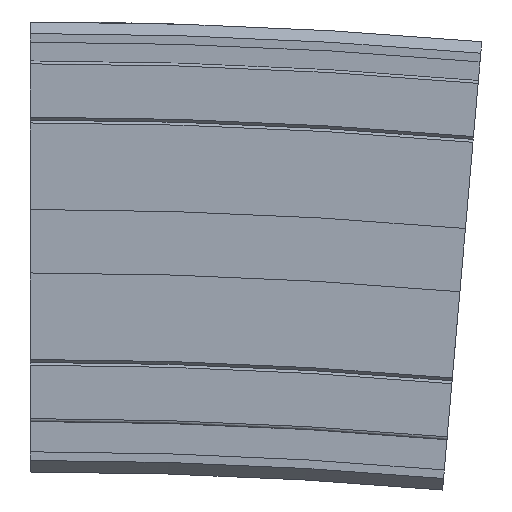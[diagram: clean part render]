
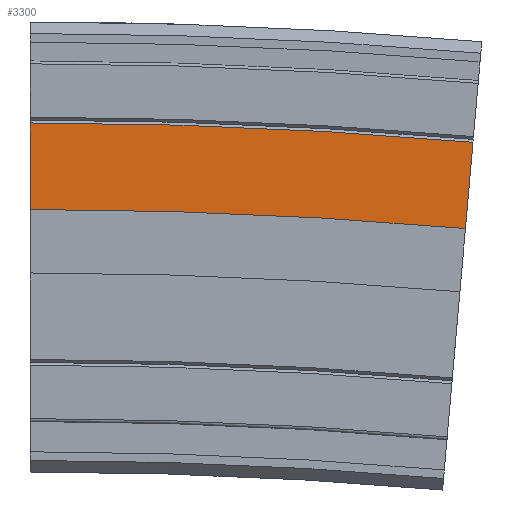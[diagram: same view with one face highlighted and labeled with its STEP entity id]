
A CAD part, front view. The second image highlights one B-rep face of the part: STEP entity #3300.
In plain terms, the highlighted planar face has unit normal (0, -1, 0).
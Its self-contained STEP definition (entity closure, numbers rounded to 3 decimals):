
#3242=CARTESIAN_POINT('',(75.433,-32.,-35.793));
#3243=VERTEX_POINT('',#3242);
#3250=CARTESIAN_POINT('',(0.0,-32.,-32.5));
#3251=VERTEX_POINT('',#3250);
#3252=CARTESIAN_POINT('',(0.0,-32.,-898.0));
#3253=DIRECTION('',(0.0,1.0,0.0));
#3254=DIRECTION('',(0.0,0.0,1.0));
#3255=AXIS2_PLACEMENT_3D('',#3252,#3253,#3254);
#3256=CIRCLE('',#3255,865.5);
#3257=EDGE_CURVE('',#3251,#3243,#3256,.T.);
#3269=CARTESIAN_POINT('',(0.0,-32.,-25.));
#3270=DIRECTION('',(0.0,-1.0,0.0));
#3271=DIRECTION('',(0.0,0.0,-1.0));
#3272=AXIS2_PLACEMENT_3D('',#3269,#3270,#3271);
#3273=PLANE('',#3272);
#3274=CARTESIAN_POINT('',(76.741,-32.,-20.851));
#3275=VERTEX_POINT('',#3274);
#3276=CARTESIAN_POINT('',(75.433,-32.,-35.793));
#3277=DIRECTION('',(0.087,0.0,0.996));
#3278=VECTOR('',#3277,15.);
#3279=LINE('',#3276,#3278);
#3280=EDGE_CURVE('',#3243,#3275,#3279,.T.);
#3281=ORIENTED_EDGE('',*,*,#3280,.T.);
#3282=CARTESIAN_POINT('',(0.0,-32.,-17.5));
#3283=VERTEX_POINT('',#3282);
#3284=CARTESIAN_POINT('',(0.0,-32.,-898.0));
#3285=DIRECTION('',(0.0,1.0,0.0));
#3286=DIRECTION('',(0.0,0.0,1.0));
#3287=AXIS2_PLACEMENT_3D('',#3284,#3285,#3286);
#3288=CIRCLE('',#3287,880.5);
#3289=EDGE_CURVE('',#3283,#3275,#3288,.T.);
#3290=ORIENTED_EDGE('',*,*,#3289,.F.);
#3291=CARTESIAN_POINT('',(0.0,-32.,-17.5));
#3292=DIRECTION('',(0.0,0.0,-1.0));
#3293=VECTOR('',#3292,15.0);
#3294=LINE('',#3291,#3293);
#3295=EDGE_CURVE('',#3283,#3251,#3294,.T.);
#3296=ORIENTED_EDGE('',*,*,#3295,.T.);
#3297=ORIENTED_EDGE('',*,*,#3257,.T.);
#3298=EDGE_LOOP('',(#3281,#3290,#3296,#3297));
#3299=FACE_OUTER_BOUND('',#3298,.T.);
#3300=ADVANCED_FACE('',(#3299),#3273,.T.);
